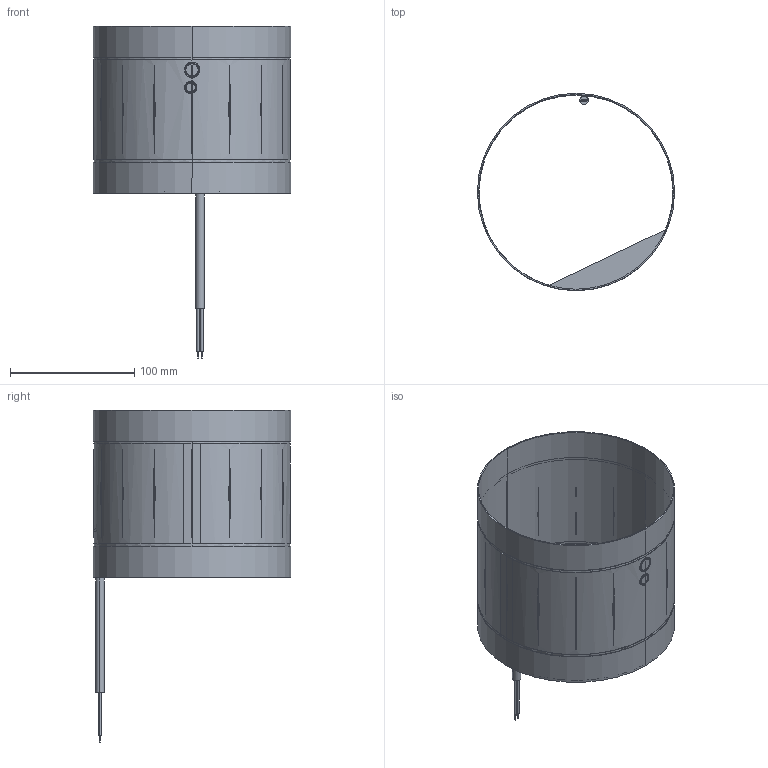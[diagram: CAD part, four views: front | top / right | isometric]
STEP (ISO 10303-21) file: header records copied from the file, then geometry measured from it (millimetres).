
FILE_DESCRIPTION (( 'STEP AP203' ), '1' );
FILE_NAME ('136634-00_Em160E202.STEP', '2016-12-06T15:02:30', ( '' ), ( '' ), 'SwSTEP 2.0', 'SolidWorks 2012', '' );
FILE_SCHEMA (( 'CONFIG_CONTROL_DESIGN' ));
Length unit declared in the file: millimetre
Products named in the file (1): 136634-00_Em160E202
Bounding box: 159 x 159 x 267.64 mm (x, y, z)
Surface area: 138182.3 mm2 (no closed solid volume)
Topology: 0 solids, 2 shells, 120 faces, 417 edges, 288 vertices
Faces by surface type: cylinder 53, bspline 37, plane 24, torus 4, cone 2
Entity records: 7368 total; most frequent: CARTESIAN_POINT 4191, ORIENTED_EDGE 642, DIRECTION 538, EDGE_CURVE 417, VERTEX_POINT 288, AXIS2_PLACEMENT_3D 230, B_SPLINE_CURVE_WITH_KNOTS 181, CIRCLE 146
